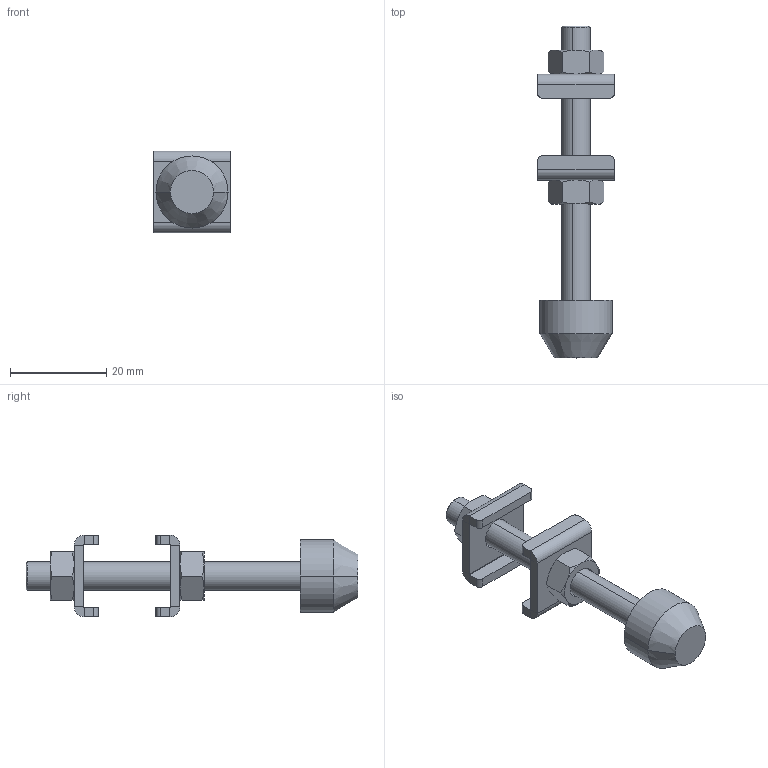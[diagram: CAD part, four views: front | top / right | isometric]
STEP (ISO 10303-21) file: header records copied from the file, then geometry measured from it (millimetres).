
FILE_DESCRIPTION (( 'STEP AP203' ), '1' );
FILE_NAME ('BRP-M6.STEP', '2016-07-25T18:01:03', ( 'Ricardo' ), ( '' ), 'SwSTEP 2.0', 'SolidWorks 2015', '' );
FILE_SCHEMA (( 'CONFIG_CONTROL_DESIGN' ));
Length unit declared in the file: millimetre
Products named in the file (5): BRP-M6; 20.20009; 20.20013; 11.50001; 14.10004
Assembly tree (6 placements, depth 2):
  BRP-M6
    20.20009
    20.20013
    11.50001  x2
    14.10004  x2
Bounding box: 16 x 69 x 17 mm (x, y, z)
Volume: 5268 mm3; surface area: 4488.4 mm2
Topology: 6 solids, 6 shells, 126 faces, 270 edges, 155 vertices
Faces by surface type: plane 56, cone 40, cylinder 30
Entity records: 2547 total; most frequent: CARTESIAN_POINT 438, DIRECTION 346, ORIENTED_EDGE 300, EDGE_CURVE 150, AXIS2_PLACEMENT_3D 139, VERTEX_POINT 87, EDGE_LOOP 77, ADVANCED_FACE 72
